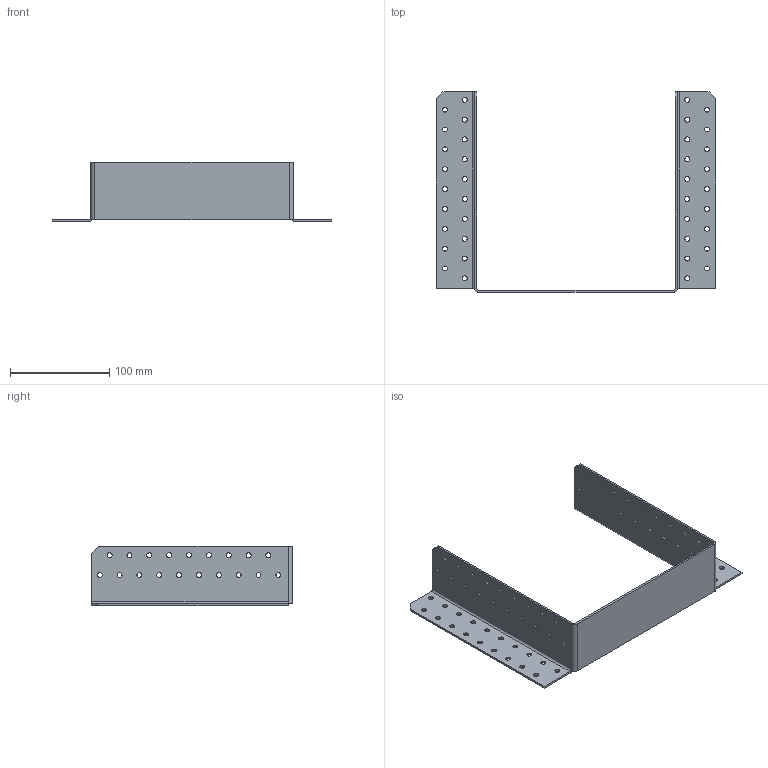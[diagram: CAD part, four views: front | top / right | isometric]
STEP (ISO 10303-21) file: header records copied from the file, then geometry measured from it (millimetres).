
FILE_DESCRIPTION (( 'STEP AP203' ), '1' );
FILE_NAME ('405272.STEP', '2021-04-17T17:58:46', ( '' ), ( '' ), 'SwSTEP 2.0', 'SolidWorks 2013', '' );
FILE_SCHEMA (( 'CONFIG_CONTROL_DESIGN' ));
Length unit declared in the file: millimetre
Products named in the file (1): 405272
Bounding box: 282 x 202 x 60 mm (x, y, z)
Volume: 98037 mm3; surface area: 103348.6 mm2
Topology: 1 solids, 1 shells, 196 faces, 552 edges, 358 vertices
Faces by surface type: cylinder 160, plane 36
Entity records: 6859 total; most frequent: DIRECTION 1268, CARTESIAN_POINT 1107, ORIENTED_EDGE 1104, EDGE_CURVE 552, AXIS2_PLACEMENT_3D 519, VERTEX_POINT 358, EDGE_LOOP 348, CIRCLE 322
